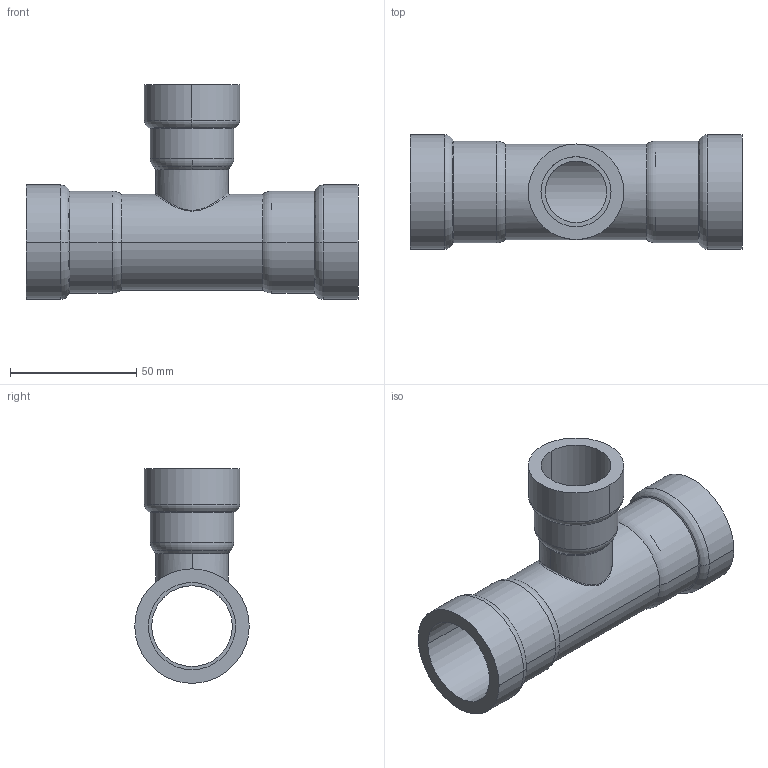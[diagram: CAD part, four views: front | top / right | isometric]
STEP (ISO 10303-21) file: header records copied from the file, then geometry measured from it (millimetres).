
FILE_DESCRIPTION(('Creo Elements/Direct Modeling STEP Export'),'2;1');
FILE_NAME('C9415_1_1-3_1.stp','2020-07-15T 8:54:51',(''),(''),'PTC Creo Elements/Direct Modeling STEP processor for AP214 (Solid Model)','PTC Creo Elements/Direct Modeling 19.0C 15-Aug-2015 (C) Parametric Technology GmbH','');
FILE_SCHEMA(('AUTOMOTIVE_DESIGN { 1 0 10303 214 1 1 1 1 }'));
Length unit declared in the file: millimetre
Products named in the file (2): 9415_1_3-4_1
Assembly tree (1 placements, depth 2):
  9415_1_3-4_1
    9415_1_3-4_1
Bounding box: 131.66 x 45.4 x 85.15 mm (x, y, z)
Volume: 68728.7 mm3; surface area: 41170.2 mm2
Topology: 1 solids, 1 shells, 57 faces, 128 edges, 78 vertices
Faces by surface type: cylinder 26, torus 12, cone 8, plane 7, bspline 4
Entity records: 5832 total; most frequent: CARTESIAN_POINT 4648, ORIENTED_EDGE 256, DIRECTION 226, EDGE_CURVE 128, AXIS2_PLACEMENT_3D 96, VERTEX_POINT 78, EDGE_LOOP 66, FACE_OUTER_BOUND 57
